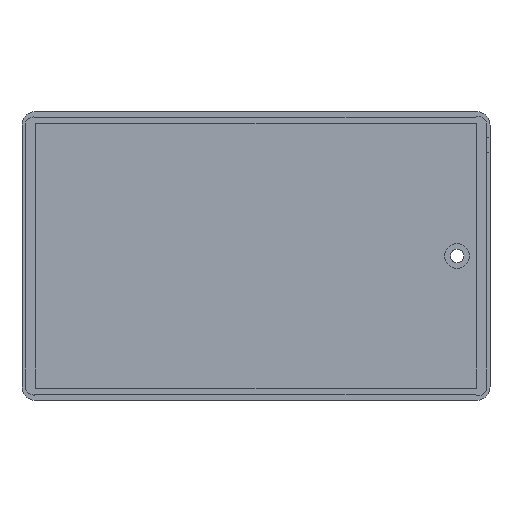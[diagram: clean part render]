
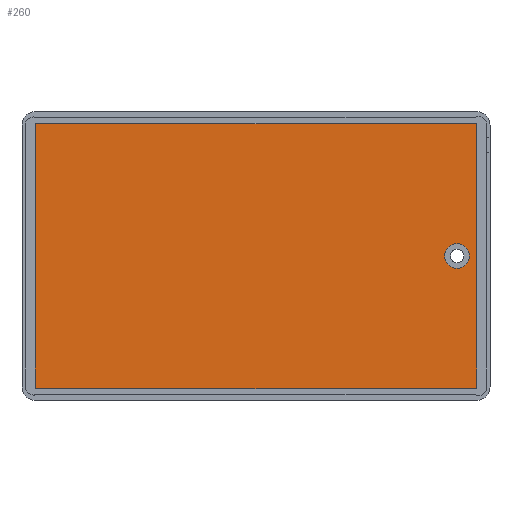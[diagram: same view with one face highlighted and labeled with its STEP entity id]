
A CAD part, front view. The second image highlights one B-rep face of the part: STEP entity #260.
In plain terms, the highlighted planar face has unit normal (0, -1, 0).
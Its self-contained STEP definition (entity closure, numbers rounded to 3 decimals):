
#39 = CARTESIAN_POINT ( 'NONE',  ( -41.35, 3.9, 24.8 ) ) ;
#60 = VERTEX_POINT ( 'NONE', #1056 ) ;
#64 = DIRECTION ( 'NONE',  ( 0., 0., -1. ) ) ;
#66 = VECTOR ( 'NONE', #1476, 1000. ) ;
#71 = DIRECTION ( 'NONE',  ( 0., -1., 0. ) ) ;
#76 = LINE ( 'NONE', #150, #1014 ) ;
#83 = CIRCLE ( 'NONE', #589, 2.325 ) ;
#111 = ORIENTED_EDGE ( 'NONE', *, *, #649, .T. ) ;
#112 = DIRECTION ( 'NONE',  ( 0., 0., -1. ) ) ;
#114 = DIRECTION ( 'NONE',  ( 0., 0., -1. ) ) ;
#120 = DIRECTION ( 'NONE',  ( 0., -1., 0. ) ) ;
#122 = CARTESIAN_POINT ( 'NONE',  ( -41.35, 3.9, -24.8 ) ) ;
#123 = PLANE ( 'NONE',  #1402 ) ;
#127 = CARTESIAN_POINT ( 'NONE',  ( 37.76, 3.9, 0. ) ) ;
#150 = CARTESIAN_POINT ( 'NONE',  ( -41.45, 3.9, -24.8 ) ) ;
#152 = VERTEX_POINT ( 'NONE', #593 ) ;
#174 = DIRECTION ( 'NONE',  ( 0., 0., -1. ) ) ;
#223 = DIRECTION ( 'NONE',  ( 1., 0., 0. ) ) ;
#236 = CARTESIAN_POINT ( 'NONE',  ( 41.35, 3.9, -24.9 ) ) ;
#238 = EDGE_CURVE ( 'NONE', #1548, #728, #737, .T. ) ;
#248 = CIRCLE ( 'NONE', #1379, 0.1 ) ;
#250 = EDGE_CURVE ( 'NONE', #152, #1507, #76, .T. ) ;
#260 = ADVANCED_FACE ( 'NONE', ( #373, #705 ), #123, .T. ) ;
#283 = CIRCLE ( 'NONE', #664, 0.1 ) ;
#291 = DIRECTION ( 'NONE',  ( -1., 0., 0. ) ) ;
#319 = VERTEX_POINT ( 'NONE', #1290 ) ;
#321 = CARTESIAN_POINT ( 'NONE',  ( -41.35, 3.9, 24.8 ) ) ;
#331 = DIRECTION ( 'NONE',  ( 0., 0., -1. ) ) ;
#336 = DIRECTION ( 'NONE',  ( 0., -1., 0. ) ) ;
#338 = CARTESIAN_POINT ( 'NONE',  ( -41.35, 3.9, 24.7 ) ) ;
#373 = FACE_OUTER_BOUND ( 'NONE', #1499, .T. ) ;
#410 = DIRECTION ( 'NONE',  ( 0., -1., 0. ) ) ;
#415 = VECTOR ( 'NONE', #223, 1000. ) ;
#456 = CARTESIAN_POINT ( 'NONE',  ( 37.76, 3.9, -2.325 ) ) ;
#460 = EDGE_CURVE ( 'NONE', #319, #687, #1531, .T. ) ;
#500 = VERTEX_POINT ( 'NONE', #1431 ) ;
#538 = ORIENTED_EDGE ( 'NONE', *, *, #857, .F. ) ;
#589 = AXIS2_PLACEMENT_3D ( 'NONE', #127, #120, #114 ) ;
#593 = CARTESIAN_POINT ( 'NONE',  ( -41.45, 3.9, 24.7 ) ) ;
#649 = EDGE_CURVE ( 'NONE', #1507, #1548, #1310, .T. ) ;
#664 = AXIS2_PLACEMENT_3D ( 'NONE', #338, #336, #331 ) ;
#687 = VERTEX_POINT ( 'NONE', #808 ) ;
#705 = FACE_BOUND ( 'NONE', #1530, .T. ) ;
#728 = VERTEX_POINT ( 'NONE', #798 ) ;
#737 = LINE ( 'NONE', #236, #415 ) ;
#787 = CARTESIAN_POINT ( 'NONE',  ( -41.35, 3.9, -24.9 ) ) ;
#796 = EDGE_CURVE ( 'NONE', #933, #152, #283, .T. ) ;
#798 = CARTESIAN_POINT ( 'NONE',  ( 41.35, 3.9, -24.9 ) ) ;
#805 = VERTEX_POINT ( 'NONE', #456 ) ;
#808 = CARTESIAN_POINT ( 'NONE',  ( 41.45, 3.9, 24.7 ) ) ;
#815 = EDGE_CURVE ( 'NONE', #60, #933, #1427, .T. ) ;
#829 = VECTOR ( 'NONE', #291, 1000. ) ;
#857 = EDGE_CURVE ( 'NONE', #500, #805, #83, .T. ) ;
#896 = DIRECTION ( 'NONE',  ( 0., 0., -1. ) ) ;
#901 = DIRECTION ( 'NONE',  ( 0., -1., 0. ) ) ;
#904 = CIRCLE ( 'NONE', #1484, 0.1 ) ;
#908 = CARTESIAN_POINT ( 'NONE',  ( -41.35, 3.9, -24.8 ) ) ;
#914 = ORIENTED_EDGE ( 'NONE', *, *, #1357, .T. ) ;
#933 = VERTEX_POINT ( 'NONE', #39 ) ;
#940 = CARTESIAN_POINT ( 'NONE',  ( 41.35, 3.9, -24.8 ) ) ;
#965 = DIRECTION ( 'NONE',  ( 0., 0., -1. ) ) ;
#1003 = ORIENTED_EDGE ( 'NONE', *, *, #250, .T. ) ;
#1005 = ORIENTED_EDGE ( 'NONE', *, *, #815, .T. ) ;
#1014 = VECTOR ( 'NONE', #174, 1000. ) ;
#1043 = DIRECTION ( 'NONE',  ( 0., -1., 0. ) ) ;
#1056 = CARTESIAN_POINT ( 'NONE',  ( 41.35, 3.9, 24.8 ) ) ;
#1084 = DIRECTION ( 'NONE',  ( 0., 0., -1. ) ) ;
#1104 = DIRECTION ( 'NONE',  ( 0., -1., 0. ) ) ;
#1118 = CARTESIAN_POINT ( 'NONE',  ( 41.35, 3.9, 24.7 ) ) ;
#1149 = ORIENTED_EDGE ( 'NONE', *, *, #796, .T. ) ;
#1209 = CARTESIAN_POINT ( 'NONE',  ( -41.45, 3.9, -24.8 ) ) ;
#1218 = AXIS2_PLACEMENT_3D ( 'NONE', #908, #901, #896 ) ;
#1225 = ORIENTED_EDGE ( 'NONE', *, *, #1405, .T. ) ;
#1290 = CARTESIAN_POINT ( 'NONE',  ( 41.45, 3.9, -24.8 ) ) ;
#1310 = CIRCLE ( 'NONE', #1218, 0.1 ) ;
#1315 = EDGE_CURVE ( 'NONE', #805, #500, #1536, .T. ) ;
#1357 = EDGE_CURVE ( 'NONE', #728, #319, #904, .T. ) ;
#1379 = AXIS2_PLACEMENT_3D ( 'NONE', #1118, #1104, #1084 ) ;
#1402 = AXIS2_PLACEMENT_3D ( 'NONE', #122, #71, #64 ) ;
#1405 = EDGE_CURVE ( 'NONE', #687, #60, #248, .T. ) ;
#1427 = LINE ( 'NONE', #321, #829 ) ;
#1431 = CARTESIAN_POINT ( 'NONE',  ( 37.76, 3.9, 2.325 ) ) ;
#1437 = ORIENTED_EDGE ( 'NONE', *, *, #1315, .F. ) ;
#1464 = CARTESIAN_POINT ( 'NONE',  ( 37.76, 3.9, 0. ) ) ;
#1470 = CARTESIAN_POINT ( 'NONE',  ( 41.45, 3.9, 24.7 ) ) ;
#1476 = DIRECTION ( 'NONE',  ( 0., 0., 1. ) ) ;
#1484 = AXIS2_PLACEMENT_3D ( 'NONE', #940, #1043, #965 ) ;
#1492 = AXIS2_PLACEMENT_3D ( 'NONE', #1464, #410, #112 ) ;
#1499 = EDGE_LOOP ( 'NONE', ( #111, #1505, #914, #1516, #1225, #1005, #1149, #1003 ) ) ;
#1505 = ORIENTED_EDGE ( 'NONE', *, *, #238, .T. ) ;
#1507 = VERTEX_POINT ( 'NONE', #1209 ) ;
#1516 = ORIENTED_EDGE ( 'NONE', *, *, #460, .T. ) ;
#1530 = EDGE_LOOP ( 'NONE', ( #538, #1437 ) ) ;
#1531 = LINE ( 'NONE', #1470, #66 ) ;
#1536 = CIRCLE ( 'NONE', #1492, 2.325 ) ;
#1548 = VERTEX_POINT ( 'NONE', #787 ) ;
